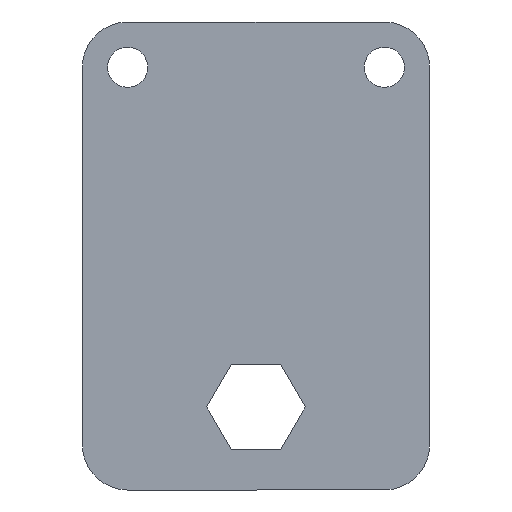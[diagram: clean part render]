
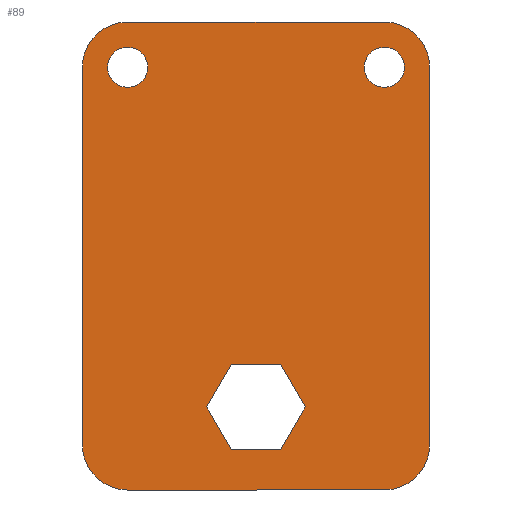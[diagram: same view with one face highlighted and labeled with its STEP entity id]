
A CAD part, front view. The second image highlights one B-rep face of the part: STEP entity #89.
In plain terms, the highlighted planar face has unit normal (0, -1, 0).
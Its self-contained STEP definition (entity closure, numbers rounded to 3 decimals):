
#5 = CARTESIAN_POINT ( 'NONE',  ( 17., 0., 42.35 ) ) ;
#6 = EDGE_CURVE ( 'NONE', #289, #134, #195, .T. ) ;
#8 = VECTOR ( 'NONE', #391, 1000. ) ;
#23 = CARTESIAN_POINT ( 'NONE',  ( -17., 0., 45. ) ) ;
#25 = DIRECTION ( 'NONE',  ( 0., 0., 1. ) ) ;
#27 = VECTOR ( 'NONE', #568, 1000. ) ;
#29 = ORIENTED_EDGE ( 'NONE', *, *, #361, .F. ) ;
#33 = CARTESIAN_POINT ( 'NONE',  ( -17., 0., 51. ) ) ;
#37 = CARTESIAN_POINT ( 'NONE',  ( -3.262, 0., 5.65 ) ) ;
#39 = CIRCLE ( 'NONE', #433, 2.65 ) ;
#42 = VECTOR ( 'NONE', #156, 1000. ) ;
#43 = AXIS2_PLACEMENT_3D ( 'NONE', #368, #108, #45 ) ;
#45 = DIRECTION ( 'NONE',  ( 0., 0., -1. ) ) ;
#46 = VECTOR ( 'NONE', #393, 1000. ) ;
#48 = VERTEX_POINT ( 'NONE', #485 ) ;
#55 = DIRECTION ( 'NONE',  ( 0.5, 0., 0.866 ) ) ;
#61 = CARTESIAN_POINT ( 'NONE',  ( -3.262, 0., -5.65 ) ) ;
#66 = CARTESIAN_POINT ( 'NONE',  ( -6.524, 0., 0. ) ) ;
#67 = CARTESIAN_POINT ( 'NONE',  ( 6.524, 0., 0. ) ) ;
#68 = LINE ( 'NONE', #505, #8 ) ;
#72 = EDGE_CURVE ( 'NONE', #698, #614, #248, .T. ) ;
#74 = CARTESIAN_POINT ( 'NONE',  ( -17., 0., 51. ) ) ;
#80 = FACE_BOUND ( 'NONE', #241, .T. ) ;
#89 = ADVANCED_FACE ( 'NONE', ( #80, #649, #561, #99 ), #435, .F. ) ;
#99 = FACE_BOUND ( 'NONE', #443, .T. ) ;
#101 = DIRECTION ( 'NONE',  ( 0., 0., 1. ) ) ;
#102 = CARTESIAN_POINT ( 'NONE',  ( 17., 0., -11. ) ) ;
#106 = ORIENTED_EDGE ( 'NONE', *, *, #138, .F. ) ;
#108 = DIRECTION ( 'NONE',  ( 0., 1., 0. ) ) ;
#115 = VERTEX_POINT ( 'NONE', #33 ) ;
#132 = LINE ( 'NONE', #66, #256 ) ;
#134 = VERTEX_POINT ( 'NONE', #524 ) ;
#138 = EDGE_CURVE ( 'NONE', #421, #450, #637, .T. ) ;
#141 = EDGE_CURVE ( 'NONE', #692, #414, #472, .T. ) ;
#144 = DIRECTION ( 'NONE',  ( 0., 0., 1. ) ) ;
#152 = LINE ( 'NONE', #700, #358 ) ;
#156 = DIRECTION ( 'NONE',  ( -1., 0., 0. ) ) ;
#157 = VERTEX_POINT ( 'NONE', #197 ) ;
#163 = AXIS2_PLACEMENT_3D ( 'NONE', #301, #307, #25 ) ;
#164 = CARTESIAN_POINT ( 'NONE',  ( 17., 0., -5. ) ) ;
#169 = DIRECTION ( 'NONE',  ( 0., 0., -1. ) ) ;
#170 = CARTESIAN_POINT ( 'NONE',  ( 3.262, 0., -5.65 ) ) ;
#174 = EDGE_CURVE ( 'NONE', #725, #627, #39, .T. ) ;
#188 = EDGE_CURVE ( 'NONE', #645, #690, #570, .T. ) ;
#193 = VECTOR ( 'NONE', #347, 1000. ) ;
#195 = CIRCLE ( 'NONE', #43, 6. ) ;
#197 = CARTESIAN_POINT ( 'NONE',  ( 17., 0., 47.65 ) ) ;
#199 = LINE ( 'NONE', #557, #46 ) ;
#204 = EDGE_CURVE ( 'NONE', #157, #523, #293, .T. ) ;
#215 = CARTESIAN_POINT ( 'NONE',  ( 23., 0., 45. ) ) ;
#218 = DIRECTION ( 'NONE',  ( 0., 1., 0. ) ) ;
#232 = CARTESIAN_POINT ( 'NONE',  ( 17., 0., 45. ) ) ;
#236 = ORIENTED_EDGE ( 'NONE', *, *, #681, .T. ) ;
#241 = EDGE_LOOP ( 'NONE', ( #709, #628 ) ) ;
#243 = DIRECTION ( 'NONE',  ( 0., 1., 0. ) ) ;
#246 = DIRECTION ( 'NONE',  ( 0., 1., 0. ) ) ;
#248 = LINE ( 'NONE', #706, #42 ) ;
#252 = ORIENTED_EDGE ( 'NONE', *, *, #629, .F. ) ;
#256 = VECTOR ( 'NONE', #55, 1000. ) ;
#270 = ORIENTED_EDGE ( 'NONE', *, *, #518, .T. ) ;
#274 = DIRECTION ( 'NONE',  ( 0., 0., 1. ) ) ;
#276 = ORIENTED_EDGE ( 'NONE', *, *, #204, .T. ) ;
#277 = CIRCLE ( 'NONE', #288, 6. ) ;
#288 = AXIS2_PLACEMENT_3D ( 'NONE', #489, #319, #596 ) ;
#289 = VERTEX_POINT ( 'NONE', #714 ) ;
#293 = CIRCLE ( 'NONE', #163, 2.65 ) ;
#294 = DIRECTION ( 'NONE',  ( 0., 1., 0. ) ) ;
#295 = DIRECTION ( 'NONE',  ( 1., 0., 0. ) ) ;
#300 = EDGE_LOOP ( 'NONE', ( #106, #29, #497, #365, #719, #252, #355, #380 ) ) ;
#301 = CARTESIAN_POINT ( 'NONE',  ( 17., 0., 45. ) ) ;
#307 = DIRECTION ( 'NONE',  ( 0., 1., 0. ) ) ;
#310 = EDGE_CURVE ( 'NONE', #450, #289, #601, .T. ) ;
#318 = EDGE_CURVE ( 'NONE', #627, #725, #487, .T. ) ;
#319 = DIRECTION ( 'NONE',  ( 0., 1., 0. ) ) ;
#323 = AXIS2_PLACEMENT_3D ( 'NONE', #587, #246, #413 ) ;
#324 = DIRECTION ( 'NONE',  ( -1., 0., 0. ) ) ;
#330 = VECTOR ( 'NONE', #295, 1000. ) ;
#336 = CARTESIAN_POINT ( 'NONE',  ( -17., 0., -11. ) ) ;
#347 = DIRECTION ( 'NONE',  ( -0.5, 0., 0.866 ) ) ;
#348 = AXIS2_PLACEMENT_3D ( 'NONE', #232, #294, #672 ) ;
#349 = LINE ( 'NONE', #67, #27 ) ;
#354 = CARTESIAN_POINT ( 'NONE',  ( 17., 0., 45. ) ) ;
#355 = ORIENTED_EDGE ( 'NONE', *, *, #6, .F. ) ;
#358 = VECTOR ( 'NONE', #169, 1000. ) ;
#360 = ORIENTED_EDGE ( 'NONE', *, *, #537, .T. ) ;
#361 = EDGE_CURVE ( 'NONE', #414, #421, #152, .T. ) ;
#365 = ORIENTED_EDGE ( 'NONE', *, *, #665, .F. ) ;
#368 = CARTESIAN_POINT ( 'NONE',  ( -17., 0., -5. ) ) ;
#380 = ORIENTED_EDGE ( 'NONE', *, *, #310, .F. ) ;
#384 = AXIS2_PLACEMENT_3D ( 'NONE', #164, #218, #274 ) ;
#391 = DIRECTION ( 'NONE',  ( 0., 0., 1. ) ) ;
#393 = DIRECTION ( 'NONE',  ( 0.5, 0., -0.866 ) ) ;
#407 = CARTESIAN_POINT ( 'NONE',  ( -3.262, 0., 5.65 ) ) ;
#413 = DIRECTION ( 'NONE',  ( 0., 0., 1. ) ) ;
#414 = VERTEX_POINT ( 'NONE', #215 ) ;
#418 = VECTOR ( 'NONE', #576, 1000. ) ;
#421 = VERTEX_POINT ( 'NONE', #486 ) ;
#423 = ORIENTED_EDGE ( 'NONE', *, *, #188, .T. ) ;
#429 = DIRECTION ( 'NONE',  ( 0., 1., 0. ) ) ;
#432 = CARTESIAN_POINT ( 'NONE',  ( 6.524, 0., 0. ) ) ;
#433 = AXIS2_PLACEMENT_3D ( 'NONE', #23, #243, #144 ) ;
#435 = PLANE ( 'NONE',  #384 ) ;
#443 = EDGE_LOOP ( 'NONE', ( #476, #691, #708, #360, #236, #423 ) ) ;
#450 = VERTEX_POINT ( 'NONE', #102 ) ;
#469 = VERTEX_POINT ( 'NONE', #432 ) ;
#472 = CIRCLE ( 'NONE', #543, 6. ) ;
#476 = ORIENTED_EDGE ( 'NONE', *, *, #581, .T. ) ;
#482 = CARTESIAN_POINT ( 'NONE',  ( -23., 0., 45. ) ) ;
#485 = CARTESIAN_POINT ( 'NONE',  ( -6.524, 0., 0. ) ) ;
#486 = CARTESIAN_POINT ( 'NONE',  ( 23., 0., -5. ) ) ;
#487 = CIRCLE ( 'NONE', #522, 2.65 ) ;
#489 = CARTESIAN_POINT ( 'NONE',  ( -17., 0., 45. ) ) ;
#497 = ORIENTED_EDGE ( 'NONE', *, *, #141, .F. ) ;
#505 = CARTESIAN_POINT ( 'NONE',  ( -23., 0., -5. ) ) ;
#518 = EDGE_CURVE ( 'NONE', #523, #157, #647, .T. ) ;
#521 = EDGE_LOOP ( 'NONE', ( #270, #276 ) ) ;
#522 = AXIS2_PLACEMENT_3D ( 'NONE', #710, #429, #101 ) ;
#523 = VERTEX_POINT ( 'NONE', #5 ) ;
#524 = CARTESIAN_POINT ( 'NONE',  ( -23., 0., -5. ) ) ;
#526 = DIRECTION ( 'NONE',  ( 0., 1., 0. ) ) ;
#537 = EDGE_CURVE ( 'NONE', #614, #48, #667, .T. ) ;
#543 = AXIS2_PLACEMENT_3D ( 'NONE', #354, #526, #582 ) ;
#557 = CARTESIAN_POINT ( 'NONE',  ( 3.262, 0., 5.65 ) ) ;
#560 = CARTESIAN_POINT ( 'NONE',  ( -17., 0., 47.65 ) ) ;
#561 = FACE_OUTER_BOUND ( 'NONE', #300, .T. ) ;
#566 = CARTESIAN_POINT ( 'NONE',  ( -3.262, 0., -5.65 ) ) ;
#568 = DIRECTION ( 'NONE',  ( -0.5, 0., -0.866 ) ) ;
#570 = LINE ( 'NONE', #407, #418 ) ;
#576 = DIRECTION ( 'NONE',  ( 1., 0., 0. ) ) ;
#581 = EDGE_CURVE ( 'NONE', #690, #469, #199, .T. ) ;
#582 = DIRECTION ( 'NONE',  ( 0., 0., -1. ) ) ;
#586 = VECTOR ( 'NONE', #324, 1000. ) ;
#587 = CARTESIAN_POINT ( 'NONE',  ( 17., 0., -5. ) ) ;
#596 = DIRECTION ( 'NONE',  ( 0., 0., 1. ) ) ;
#601 = LINE ( 'NONE', #336, #586 ) ;
#614 = VERTEX_POINT ( 'NONE', #61 ) ;
#624 = LINE ( 'NONE', #74, #330 ) ;
#627 = VERTEX_POINT ( 'NONE', #560 ) ;
#628 = ORIENTED_EDGE ( 'NONE', *, *, #318, .T. ) ;
#629 = EDGE_CURVE ( 'NONE', #134, #668, #68, .T. ) ;
#637 = CIRCLE ( 'NONE', #323, 6. ) ;
#641 = EDGE_CURVE ( 'NONE', #668, #115, #277, .T. ) ;
#645 = VERTEX_POINT ( 'NONE', #37 ) ;
#647 = CIRCLE ( 'NONE', #348, 2.65 ) ;
#648 = CARTESIAN_POINT ( 'NONE',  ( 3.262, 0., 5.65 ) ) ;
#649 = FACE_BOUND ( 'NONE', #521, .T. ) ;
#663 = CARTESIAN_POINT ( 'NONE',  ( -17., 0., 42.35 ) ) ;
#665 = EDGE_CURVE ( 'NONE', #115, #692, #624, .T. ) ;
#667 = LINE ( 'NONE', #566, #193 ) ;
#668 = VERTEX_POINT ( 'NONE', #482 ) ;
#669 = CARTESIAN_POINT ( 'NONE',  ( 17., 0., 51. ) ) ;
#672 = DIRECTION ( 'NONE',  ( 0., 0., 1. ) ) ;
#673 = EDGE_CURVE ( 'NONE', #469, #698, #349, .T. ) ;
#681 = EDGE_CURVE ( 'NONE', #48, #645, #132, .T. ) ;
#690 = VERTEX_POINT ( 'NONE', #648 ) ;
#691 = ORIENTED_EDGE ( 'NONE', *, *, #673, .T. ) ;
#692 = VERTEX_POINT ( 'NONE', #669 ) ;
#698 = VERTEX_POINT ( 'NONE', #170 ) ;
#700 = CARTESIAN_POINT ( 'NONE',  ( 23., 0., -5. ) ) ;
#706 = CARTESIAN_POINT ( 'NONE',  ( 3.262, 0., -5.65 ) ) ;
#708 = ORIENTED_EDGE ( 'NONE', *, *, #72, .T. ) ;
#709 = ORIENTED_EDGE ( 'NONE', *, *, #174, .T. ) ;
#710 = CARTESIAN_POINT ( 'NONE',  ( -17., 0., 45. ) ) ;
#714 = CARTESIAN_POINT ( 'NONE',  ( -17., 0., -11. ) ) ;
#719 = ORIENTED_EDGE ( 'NONE', *, *, #641, .F. ) ;
#725 = VERTEX_POINT ( 'NONE', #663 ) ;
